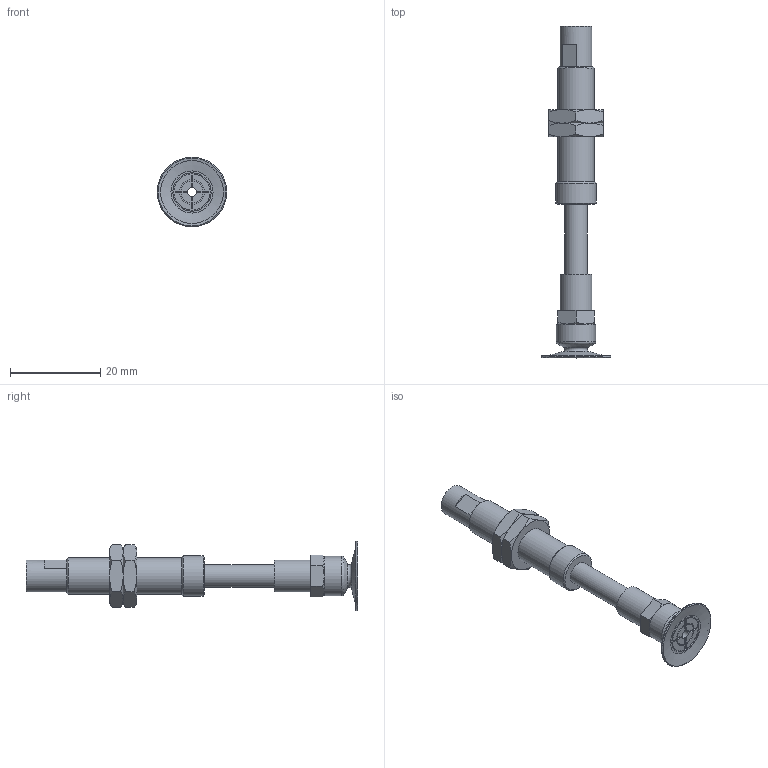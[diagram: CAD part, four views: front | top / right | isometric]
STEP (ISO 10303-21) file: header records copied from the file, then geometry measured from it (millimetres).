
FILE_DESCRIPTION(('STEP AP203'),'1');
FILE_NAME('-SPE.stp','2025-04-01T05:29:06',(' '),(' '),'Spatial InterOp 3D',' ',' ');
FILE_SCHEMA(('CONFIG_CONTROL_DESIGN'));
Length unit declared in the file: millimetre
Products named in the file (9): BNABPATS-15B-15-※-SPE; NUT; BODY; STOPPER; ZIG; TN-PS-10-M5; Setting screws-TN-PS-10-M5; BPAG-15B
Assembly tree (8 placements, depth 3):
  BNABPATS-15B-15-※-SPE
    NUT
    NUT
    BODY
    STOPPER
    ZIG
    TN-PS-10-M5
      Setting screws-TN-PS-10-M5
    BPAG-15B
Bounding box: 15.4 x 73.5 x 15.4 mm (x, y, z)
Volume: 3117.2 mm3; surface area: 4902.6 mm2
Topology: 7 solids, 7 shells, 186 faces, 409 edges, 250 vertices
Faces by surface type: plane 81, cone 57, cylinder 39, torus 9
Full cylindrical faces by diameter (mm): 2 x3, 3.4 x1, 3.5 x1, 3.9 x1, 4 x5, 4.2 x2, 5 x3, 5.2 x1, 6 x2, 7 x2, 7.25 x2, 8 x1, 8.5 x1, 8.7 x1, 9 x1
Entity records: 5216 total; most frequent: CARTESIAN_POINT 1027, DIRECTION 798, ORIENTED_EDGE 672, AXIS2_PLACEMENT_3D 341, EDGE_CURVE 336, EDGE_LOOP 268, VERTEX_POINT 232, FACE_OUTER_BOUND 222
